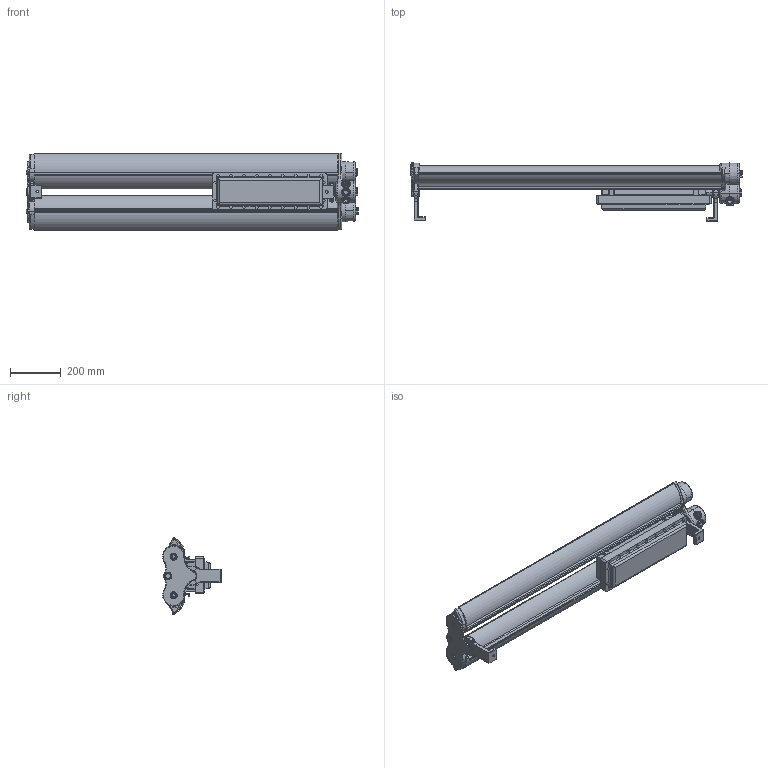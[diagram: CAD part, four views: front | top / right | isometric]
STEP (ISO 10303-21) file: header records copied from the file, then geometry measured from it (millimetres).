
FILE_DESCRIPTION (( 'STEP AP214' ), '1' );
FILE_NAME ('EPL-48-2L.STEP', '2015-03-10T18:51:54', ( '' ), ( '' ), 'SwSTEP 2.0', 'SolidWorks 2015', '' );
FILE_SCHEMA (( 'AUTOMOTIVE_DESIGN' ));
Length unit declared in the file: inch
Products named in the file (14): Ballast Box; EPL-48-2 light no ballast; Spider End_1; Hinge mt._1; connect 2_1; Glass tube4ft_1; connect 1_1; Update Reflector 4ft_1; quarter screw_1; End Support_1; End Support_1_1_2; End Support_1_1_3; End Support_1_1; EPL-48-2L
Assembly tree (20 placements, depth 4):
  EPL-48-2L
    EPL-48-2 light no ballast
      End Support_1
        End Support_1_1
        End Support_1_1_3
        End Support_1_1_2
      quarter screw_1  x4
      Update Reflector 4ft_1  x2
      connect 1_1  x2
      Glass tube4ft_1  x2
      connect 2_1
      Hinge mt._1  x2
      Spider End_1
    Ballast Box
Bounding box: 1307.55 x 230.87 x 304.38 mm (x, y, z)
Volume: 10202475.1 mm3; surface area: 1939297 mm2
Topology: 17 solids, 19 shells, 789 faces, 2164 edges, 1385 vertices
Faces by surface type: plane 315, cylinder 228, bspline 198, cone 46, sphere 2
Entity records: 36054 total; most frequent: CARTESIAN_POINT 15821, ORIENTED_EDGE 3057, DIRECTION 2687, EDGE_CURVE 1711, VERTEX_POINT 1129, LINE 931, VECTOR 931, AXIS2_PLACEMENT_3D 878
